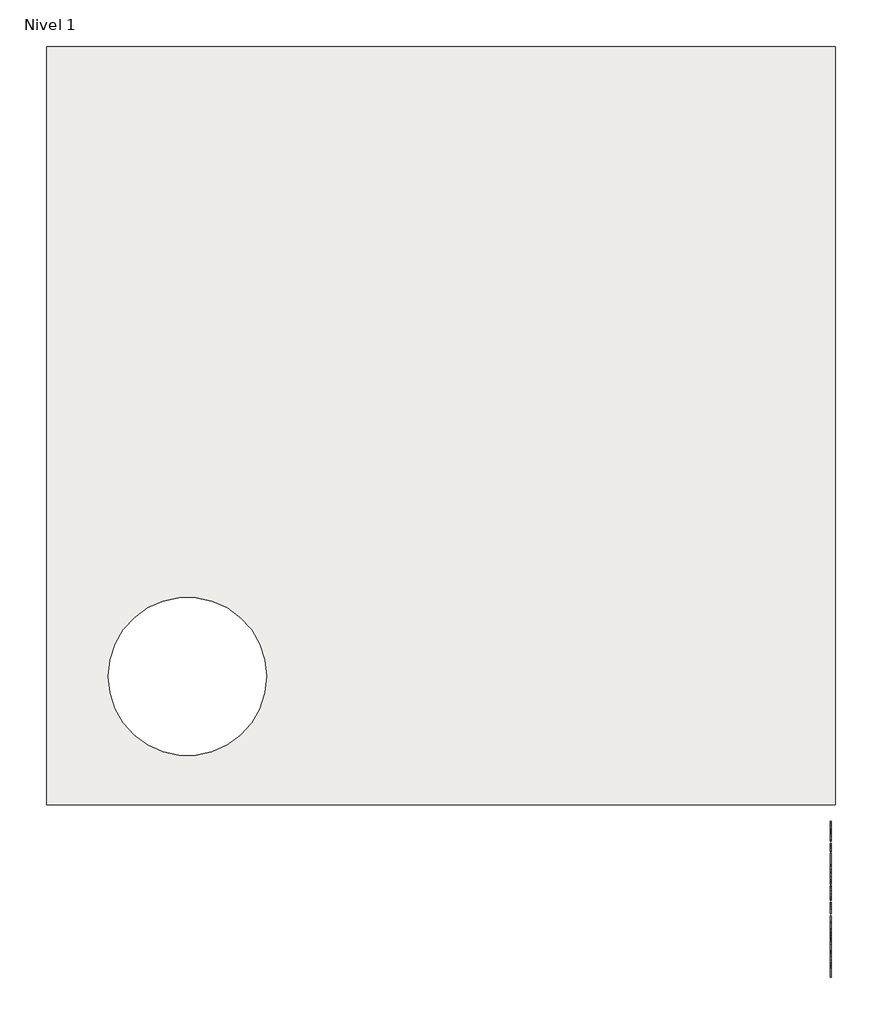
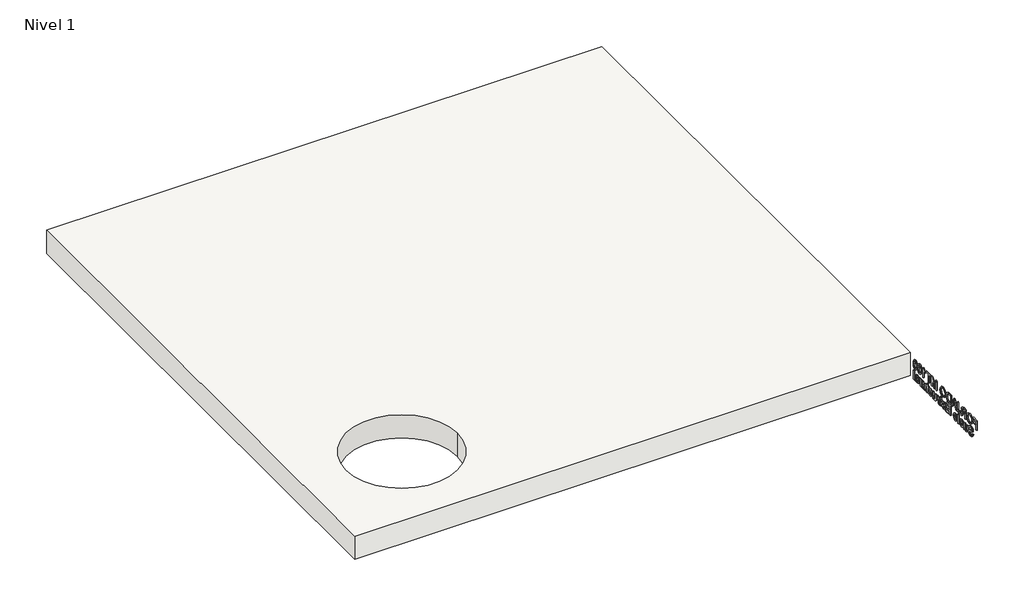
# One storey: 1 proxy, 1 slab.
"""IFC4 building model written with IfcOpenShell, lengths in millimetres."""

from ifc_helpers import new_model, si_unit, point, frame, frame_2d, origin, place, context, project, spatial, polyline, circle_curve, trimmed, segment, composite_curve, outline, extrude, element, save

model = new_model("IFC4")

# Units and contexts
model_context = context("Model", 3, world=origin())
ifc_project = project(units=[si_unit("LENGTHUNIT", "METRE", prefix="MILLI")], contexts=[model_context])

# Site, building, storey
site = spatial("IfcSite", under=ifc_project)
building = spatial("IfcBuilding", under=site)
storey = spatial("IfcBuildingStorey", under=building, Name="Nivel 1", Elevation=0.0)

# Proxy
placement = place(None, origin())
element("IfcBuildingElementProxy", 1, Name="100mm Arial", ObjectType="100mm Arial", at=placement, inside=storey, context=model_context, shape_type="SweptSolid", body=[
    extrude(outline(polyline([(14707.1707075, -1457.5453321), (14707.1707075, -1397.271546), (14747.6671575, -1397.271546), (14747.6671575, -1404.8057693), (14714.7049307, -1404.8057693), (14714.7049307, -1422.6995495), (14742.958268, -1422.6995495), (14742.958268, -1430.2337728), (14714.7049307, -1430.2337728), (14714.7049307, -1457.5453321), (14707.1707075, -1457.5453321)])), frame((9557.0230098, 0.0, 0.0), z_axis=(1.0, 0.0, 0.0), x_axis=(0.0, 1.0, 0.0)), (0.0, 0.0, 1.0), 5.0),
    extrude(outline(polyline([(14755.2013808, -1428.2030642), (14757.2100165, -1414.8746995), (14763.2359235, -1404.791054), (14772.4366522, -1398.4450896), (14783.9697528, -1396.3297681), (14798.9646229, -1400.3028937), (14809.1475965, -1411.3834994), (14812.6498331, -1427.511446), (14808.9636555, -1443.8601219), (14798.5158069, -1454.7788595), (14783.925607, -1458.48711), (14768.7688688, -1454.3889046), (14758.6447562, -1443.205292), (14755.2013808, -1428.2030642)]), holes=[polyline([(14762.735604, -1428.2766406), (14764.2420808, -1437.7054561), (14768.7615111, -1444.8901915), (14775.5544522, -1449.437213), (14783.8814611, -1450.9528868), (14792.3298711, -1449.4224977), (14799.1338486, -1444.8313304), (14803.6201696, -1437.4258658), (14805.1156099, -1427.4525849), (14802.5551512, -1415.0181735), (14795.0724314, -1406.7849744), (14784.0138986, -1403.8639914), (14769.0190285, -1409.4925859), (14764.3064602, -1417.0028968), (14762.735604, -1428.2766406)])]), frame((9557.0230098, 0.0, 0.0), z_axis=(1.0, 0.0, 0.0), x_axis=(0.0, 1.0, 0.0)), (0.0, 0.0, 1.0), 5.0),
    extrude(outline(polyline([(14823.0093901, -1457.5453321), (14823.0093901, -1397.271546), (14848.981859, -1397.271546), (14861.0410308, -1398.8975845), (14867.6334761, -1404.6512589), (14870.0982855, -1413.7673747), (14866.0147954, -1424.6272512), (14853.3964429, -1430.2337728), (14857.6785893, -1433.4564191), (14863.7854305, -1441.2113715), (14873.8359666, -1457.5453321), (14865.0803751, -1457.5453321), (14857.237131, -1445.0520596), (14851.5717482, -1436.7820723), (14847.591265, -1432.8751655), (14844.0080944, -1431.4404257), (14839.6376563, -1431.1755507), (14830.5436134, -1431.1755507), (14830.5436134, -1457.5453321), (14823.0093901, -1457.5453321)]), holes=[polyline([(14830.5436134, -1423.6413275), (14847.407324, -1423.6413275), (14856.0084051, -1422.5744697), (14860.893878, -1419.1605247), (14862.5640622, -1414.046965), (14859.3782042, -1407.4103738), (14849.3055951, -1404.8057693), (14830.5436134, -1404.8057693), (14830.5436134, -1423.6413275)])]), frame((9557.0230098, 0.0, 0.0), z_axis=(1.0, 0.0, 0.0), x_axis=(0.0, 1.0, 0.0)), (0.0, 0.0, 1.0), 5.0),
    extrude(outline(polyline([(14879.5160646, -1440.6227603), (14887.0502878, -1439.6515519), (14889.6254618, -1448.5542962), (14895.9824627, -1450.9528868), (14901.1401683, -1449.5917234), (14904.1273701, -1445.8834729), (14904.9440681, -1438.4154684), (14904.9440681, -1397.271546), (14912.4782914, -1397.271546), (14912.4782914, -1438.2830309), (14910.6609543, -1449.9890359), (14904.8925646, -1456.3092486), (14895.629296, -1458.48711), (14883.5480513, -1453.9915921), (14879.5160646, -1440.6227603)])), frame((9557.0230098, 0.0, 0.0), z_axis=(1.0, 0.0, 0.0), x_axis=(0.0, 1.0, 0.0)), (0.0, 0.0, 1.0), 5.0),
    extrude(outline(polyline([(14918.6439936, -1457.5453321), (14942.7034761, -1397.271546), (14949.1193381, -1397.271546), (14973.1788206, -1457.5453321), (14965.2178542, -1457.5453321), (14958.316388, -1438.709774), (14933.4917109, -1438.709774), (14926.60496, -1457.5453321), (14918.6439936, -1457.5453321)]), holes=[polyline([(14936.2581835, -1431.1755507), (14955.5646306, -1431.1755507), (14950.1346924, -1416.3572639), (14945.9114071, -1404.8057693), (14942.1590107, -1415.0623193), (14936.2581835, -1431.1755507)])]), frame((9557.0230098, 0.0, 0.0), z_axis=(1.0, 0.0, 0.0), x_axis=(0.0, 1.0, 0.0)), (0.0, 0.0, 1.0), 5.0),
    extrude(outline(polyline([(14981.2280786, -1457.5453321), (14981.2280786, -1397.271546), (15002.020769, -1397.271546), (15012.7776385, -1398.1397475), (15021.636237, -1402.4513245), (15028.7731477, -1412.7520204), (15031.1423077, -1427.0847029), (15029.5383422, -1439.2468817), (15025.4180639, -1448.0245461), (15019.9145492, -1453.4912725), (15012.7114198, -1456.5152625), (15003.021408, -1457.5453321), (14981.2280786, -1457.5453321)]), holes=[polyline([(14988.7623019, -1450.0111089), (15002.0943454, -1450.0111089), (15011.7917148, -1448.9221782), (15017.3835211, -1445.8466847), (15021.9673308, -1438.3639649), (15023.6080845, -1426.9669807), (15020.3927958, -1412.6931593), (15012.5716246, -1406.0124222), (15001.8883315, -1404.8057693), (14988.7623019, -1404.8057693), (14988.7623019, -1450.0111089)])]), frame((9557.0230098, 0.0, 0.0), z_axis=(1.0, 0.0, 0.0), x_axis=(0.0, 1.0, 0.0)), (0.0, 0.0, 1.0), 5.0),
    extrude(outline(polyline([(15038.676531, -1428.2030642), (15040.6851667, -1414.8746995), (15046.7110738, -1404.791054), (15055.9118025, -1398.4450896), (15067.444903, -1396.3297681), (15082.4397731, -1400.3028937), (15092.6227467, -1411.3834994), (15096.1249833, -1427.511446), (15092.4388058, -1443.8601219), (15081.9909571, -1454.7788595), (15067.4007572, -1458.48711), (15052.244019, -1454.3889046), (15042.1199065, -1443.205292), (15038.676531, -1428.2030642)]), holes=[polyline([(15046.2107542, -1428.2766406), (15047.717231, -1437.7054561), (15052.2366613, -1444.8901915), (15059.0296024, -1449.437213), (15067.3566113, -1450.9528868), (15075.8050213, -1449.4224977), (15082.6089988, -1444.8313304), (15087.0953198, -1437.4258658), (15088.5907601, -1427.4525849), (15086.0303014, -1415.0181735), (15078.5475816, -1406.7849744), (15067.4890488, -1403.8639914), (15052.4941787, -1409.4925859), (15047.7816104, -1417.0028968), (15046.2107542, -1428.2766406)])]), frame((9557.0230098, 0.0, 0.0), z_axis=(1.0, 0.0, 0.0), x_axis=(0.0, 1.0, 0.0)), (0.0, 0.0, 1.0), 5.0),
    extrude(outline(polyline([(15130.028988, -1457.5453321), (15130.028988, -1397.271546), (15142.9931495, -1397.271546), (15155.324554, -1439.7545588), (15157.8114363, -1448.6278726), (15160.5043325, -1439.0187948), (15172.6297231, -1397.271546), (15185.5938846, -1397.271546), (15185.5938846, -1457.5453321), (15178.0596613, -1457.5453321), (15178.0596613, -1404.8057693), (15162.9176384, -1457.5453321), (15152.7052342, -1457.5453321), (15137.5632113, -1404.8057693), (15137.5632113, -1457.5453321), (15130.028988, -1457.5453321)])), frame((9557.0230098, 0.0, 0.0), z_axis=(1.0, 0.0, 0.0), x_axis=(0.0, 1.0, 0.0)), (0.0, 0.0, 1.0), 5.0),
    extrude(outline(polyline([(15213.8472218, -1457.5453321), (15213.8472218, -1404.8057693), (15194.0698857, -1404.8057693), (15194.0698857, -1397.271546), (15241.1587811, -1397.271546), (15241.1587811, -1404.8057693), (15221.3814451, -1404.8057693), (15221.3814451, -1457.5453321), (15213.8472218, -1457.5453321)])), frame((9557.0230098, 0.0, 0.0), z_axis=(1.0, 0.0, 0.0), x_axis=(0.0, 1.0, 0.0)), (0.0, 0.0, 1.0), 5.0),
    extrude(outline(polyline([(15275.0627858, -1457.5453321), (15267.5285625, -1457.5453321), (15267.5285625, -1410.574159), (15260.3916518, -1415.6582882), (15252.460116, -1419.462188), (15252.460116, -1412.3399926), (15263.5039335, -1405.2913735), (15270.2067435, -1397.271546), (15275.0627858, -1397.271546), (15275.0627858, -1457.5453321)])), frame((9557.0230098, 0.0, 0.0), z_axis=(1.0, 0.0, 0.0), x_axis=(0.0, 1.0, 0.0)), (0.0, 0.0, 1.0), 5.0),
    extrude(outline(polyline([(15292.956566, -1427.8940433), (15295.1712157, -1410.5520861), (15301.7489457, -1400.5530534), (15312.7339021, -1397.271546), (15321.5336394, -1399.213963), (15327.61105, -1404.8131269), (15331.1427171, -1413.7305865), (15332.5112382, -1427.8940433), (15330.3186615, -1445.1624242), (15323.7630043, -1455.1835297), (15312.7339021, -1458.48711), (15304.9053732, -1457.0523703), (15298.9604002, -1452.7481509), (15294.4575246, -1442.5541408), (15292.956566, -1427.8940433)]), holes=[polyline([(15300.4907893, -1427.879328), (15304.0224565, -1446.5898063), (15312.7339021, -1450.9528868), (15321.4453477, -1446.575091), (15324.9770149, -1427.879328), (15321.56307, -1409.3822213), (15312.6456104, -1404.8057693), (15304.1401787, -1408.837756), (15300.4907893, -1427.879328)])]), frame((9557.0230098, 0.0, 0.0), z_axis=(1.0, 0.0, 0.0), x_axis=(0.0, 1.0, 0.0)), (0.0, 0.0, 1.0), 5.0),
    extrude(outline(polyline([(15339.1036835, -1427.8940433), (15341.3183331, -1410.5520861), (15347.8960632, -1400.5530534), (15358.8810196, -1397.271546), (15367.6807569, -1399.213963), (15373.7581675, -1404.8131269), (15377.2898346, -1413.7305865), (15378.6583556, -1427.8940433), (15376.4657789, -1445.1624242), (15369.9101218, -1455.1835297), (15358.8810196, -1458.48711), (15351.0524907, -1457.0523703), (15345.1075177, -1452.7481509), (15340.6046421, -1442.5541408), (15339.1036835, -1427.8940433)]), holes=[polyline([(15346.6379068, -1427.879328), (15350.1695739, -1446.5898063), (15358.8810196, -1450.9528868), (15367.5924652, -1446.575091), (15371.1241324, -1427.879328), (15367.7101875, -1409.3822213), (15358.7927279, -1404.8057693), (15350.2872962, -1408.837756), (15346.6379068, -1427.879328)])]), frame((9557.0230098, 0.0, 0.0), z_axis=(1.0, 0.0, 0.0), x_axis=(0.0, 1.0, 0.0)), (0.0, 0.0, 1.0), 5.0),
    extrude(outline(polyline([(14747.6671575, -1510.0111089), (14755.2013808, -1510.0111089), (14757.6294019, -1517.5526898), (14763.5596597, -1522.3204404), (14772.5948415, -1524.1377775), (14780.4675162, -1522.7618988), (14785.5516454, -1518.9800719), (14787.2218296, -1513.9253733), (14785.9710308, -1509.2238414), (14780.8501135, -1505.8025388), (14769.8798724, -1502.9257016), (14758.0708603, -1499.2100935), (14751.662356, -1493.6035719), (14749.5507133, -1486.1134945), (14752.1626755, -1477.5859898), (14759.7925481, -1471.5674404), (14770.9614454, -1469.5146588), (14782.8808221, -1471.6630897), (14790.8270732, -1477.9759447), (14793.814275, -1487.4084391), (14786.2800517, -1487.4084391), (14782.0126206, -1479.6682019), (14771.255751, -1477.0488821), (14760.4694509, -1479.6387713), (14757.0849366, -1485.8927653), (14759.4835272, -1491.1166896), (14771.7855011, -1495.3252596), (14785.1175446, -1499.1070865), (14792.4089658, -1505.2139276), (14794.7560529, -1513.7340747), (14792.0557991, -1522.7471835), (14784.2861313, -1529.3249136), (14772.8891471, -1531.6720007), (14759.4320237, -1529.1409726), (14750.9192343, -1521.5184577), (14747.6671575, -1510.0111089)])), frame((9557.0230098, 0.0, 0.0), z_axis=(1.0, 0.0, 0.0), x_axis=(0.0, 1.0, 0.0)), (0.0, 0.0, 1.0), 5.0),
    extrude(outline(polyline([(14833.3689471, -1530.7302228), (14833.3689471, -1523.1224232), (14827.4681199, -1529.5346063), (14819.7720286, -1531.6720007), (14812.6866213, -1530.1710422), (14807.8011484, -1526.4039306), (14805.5570683, -1520.8562701), (14805.1156099, -1513.8517969), (14805.1156099, -1486.4666612), (14812.6498331, -1486.4666612), (14812.6498331, -1510.3054145), (14813.1060068, -1517.9867905), (14816.085851, -1522.4970238), (14821.6997302, -1524.1377775), (14827.9905123, -1522.4602356), (14832.1475789, -1517.8911412), (14833.3689471, -1509.4960741), (14833.3689471, -1486.4666612), (14840.9031704, -1486.4666612), (14840.9031704, -1530.7302228), (14833.3689471, -1530.7302228)])), frame((9557.0230098, 0.0, 0.0), z_axis=(1.0, 0.0, 0.0), x_axis=(0.0, 1.0, 0.0)), (0.0, 0.0, 1.0), 5.0),
    extrude(outline(polyline([(14882.2531066, -1517.5453321), (14889.6401771, -1518.48711), (14882.7313532, -1528.21391), (14869.862841, -1531.6720007), (14861.0226367, -1530.1802393), (14854.2204986, -1525.7049548), (14849.8831699, -1518.5367741), (14848.4373936, -1508.966324), (14849.8978852, -1499.0739771), (14854.2793597, -1491.6758702), (14860.9895273, -1487.06263), (14869.4360979, -1485.5248833), (14877.6196329, -1487.0589512), (14884.1587354, -1491.6611549), (14888.4464, -1499.0445466), (14889.8756216, -1508.9221782), (14889.8314757, -1510.9528868), (14855.9716169, -1510.9528868), (14860.3052668, -1520.7385478), (14870.0099938, -1524.1377775), (14877.3970643, -1522.5632425), (14882.2531066, -1517.5453321)]), holes=[polyline([(14855.9716169, -1503.4186635), (14882.3413983, -1503.4186635), (14879.3247659, -1496.5907737), (14869.4066674, -1493.0591065), (14860.1286834, -1495.8770826), (14855.9716169, -1503.4186635)])]), frame((9557.0230098, 0.0, 0.0), z_axis=(1.0, 0.0, 0.0), x_axis=(0.0, 1.0, 0.0)), (0.0, 0.0, 1.0), 5.0),
    extrude(outline(polyline([(9562.0230098, 14904.9440681), (9562.0230098, 14897.4098448), (9557.0230098, 14897.4098448), (9557.0230098, 14904.9440681), (9562.0230098, 14904.9440681)])), frame((0.0, 0.0, -1530.7302228), z_axis=(0.0, 0.0, 1.0), x_axis=(1.0, 0.0, 0.0)), (0.0, 0.0, 1.0), 60.2737861),
    extrude(outline(polyline([(14914.3618472, -1508.598442), (14915.9915644, -1497.9261853), (14920.8807161, -1490.4250714), (14934.1538985, -1485.5248833), (14942.0688796, -1487.0166448), (14948.3909317, -1491.4919292), (14952.5351224, -1498.59757), (14953.9165193, -1507.9804003), (14951.4737828, -1521.3860202), (14944.3589451, -1528.9717469), (14934.1538985, -1531.6720007), (14926.1432681, -1530.1857575), (14919.8285736, -1525.7270277), (14915.7285288, -1518.4723948), (14914.3618472, -1508.598442)]), holes=[polyline([(14921.8960704, -1508.5837267), (14925.3835917, -1520.2603013), (14934.1538985, -1524.1377775), (14942.8947747, -1520.2382283), (14946.382296, -1508.3482822), (14942.8727018, -1496.9365828), (14934.1538985, -1493.0591065), (14925.3835917, -1496.9218675), (14921.8960704, -1508.5837267)])]), frame((9557.0230098, 0.0, 0.0), z_axis=(1.0, 0.0, 0.0), x_axis=(0.0, 1.0, 0.0)), (0.0, 0.0, 1.0), 5.0),
    extrude(outline(polyline([(14986.8787461, -1530.7302228), (14986.8787461, -1470.4564367), (15030.2005298, -1470.4564367), (15030.2005298, -1477.99066), (14994.4129693, -1477.99066), (14994.4129693, -1495.8844403), (15028.316974, -1495.8844403), (15028.316974, -1503.4186635), (14994.4129693, -1503.4186635), (14994.4129693, -1523.1959996), (15031.1423077, -1523.1959996), (15031.1423077, -1530.7302228), (14986.8787461, -1530.7302228)])), frame((9557.0230098, 0.0, 0.0), z_axis=(1.0, 0.0, 0.0), x_axis=(0.0, 1.0, 0.0)), (0.0, 0.0, 1.0), 5.0),
    extrude(outline(polyline([(15038.676531, -1517.5453321), (15046.2107542, -1516.6035542), (15049.6982756, -1522.1953605), (15057.6886725, -1524.1377775), (15065.3700485, -1522.3572286), (15067.8716461, -1518.1780892), (15065.3553333, -1514.7935748), (15057.6003808, -1512.645144), (15046.2549001, -1508.9589664), (15041.3032084, -1504.654747), (15039.6183089, -1498.5773365), (15040.9721146, -1492.9634572), (15044.6656499, -1488.6739531), (15049.4554734, -1486.4445883), (15055.9375542, -1485.5248833), (15065.1051735, -1487.0037689), (15070.9324243, -1491.006325), (15073.5223136, -1497.7679961), (15065.9880903, -1498.709774), (15063.1553989, -1494.5527074), (15056.5261654, -1493.0591065), (15049.3156783, -1494.4864887), (15047.1525321, -1497.8121419), (15048.0501642, -1500.0047186), (15050.8607827, -1501.6675452), (15057.3502211, -1503.2715107), (15068.4087538, -1506.8178931), (15073.5443865, -1510.8351645), (15075.4058694, -1517.383464), (15073.2206503, -1524.5939512), (15066.9151529, -1529.8252331), (15057.5856655, -1531.6720007), (15044.4449207, -1528.110903), (15038.676531, -1517.5453321)])), frame((9557.0230098, 0.0, 0.0), z_axis=(1.0, 0.0, 0.0), x_axis=(0.0, 1.0, 0.0)), (0.0, 0.0, 1.0), 5.0),
    extrude(outline(polyline([(15099.892095, -1524.4467984), (15100.8338729, -1530.950952), (15095.1979207, -1531.6720007), (15088.8850657, -1530.421202), (15085.7359958, -1527.1396946), (15084.8236485, -1518.590117), (15084.8236485, -1494.0008844), (15079.172981, -1494.0008844), (15079.172981, -1486.4666612), (15084.8236485, -1486.4666612), (15084.8236485, -1475.7097916), (15092.3578717, -1471.2804924), (15092.3578717, -1486.4666612), (15099.892095, -1486.4666612), (15099.892095, -1494.0008844), (15092.3578717, -1494.0008844), (15092.3578717, -1518.3693878), (15092.7551843, -1522.2542217), (15094.0427713, -1523.6301003), (15096.6105876, -1524.1377775), (15099.892095, -1524.4467984)])), frame((9557.0230098, 0.0, 0.0), z_axis=(1.0, 0.0, 0.0), x_axis=(0.0, 1.0, 0.0)), (0.0, 0.0, 1.0), 5.0),
    extrude(outline(polyline([(15107.4263182, -1530.7302228), (15107.4263182, -1486.4666612), (15114.0187636, -1486.4666612), (15114.0187636, -1493.0149607), (15118.6982226, -1486.981696), (15123.4071121, -1485.5248833), (15130.9707659, -1487.8498975), (15128.4544531, -1494.6042109), (15123.1569523, -1493.0591065), (15118.8968788, -1494.5453498), (15116.1819097, -1498.6656281), (15114.9605415, -1507.4653655), (15114.9605415, -1530.7302228), (15107.4263182, -1530.7302228)])), frame((9557.0230098, 0.0, 0.0), z_axis=(1.0, 0.0, 0.0), x_axis=(0.0, 1.0, 0.0)), (0.0, 0.0, 1.0), 5.0),
    extrude(outline(polyline([(15163.9329927, -1530.7302228), (15163.9329927, -1523.1224232), (15158.0321655, -1529.5346063), (15150.3360742, -1531.6720007), (15143.2506669, -1530.1710422), (15138.365194, -1526.4039306), (15136.1211139, -1520.8562701), (15135.6796555, -1513.8517969), (15135.6796555, -1486.4666612), (15143.2138787, -1486.4666612), (15143.2138787, -1510.3054145), (15143.6700524, -1517.9867905), (15146.6498966, -1522.4970238), (15152.2637758, -1524.1377775), (15158.5545579, -1522.4602356), (15162.7116245, -1517.8911412), (15163.9329927, -1509.4960741), (15163.9329927, -1486.4666612), (15171.467216, -1486.4666612), (15171.467216, -1530.7302228), (15163.9329927, -1530.7302228)])), frame((9557.0230098, 0.0, 0.0), z_axis=(1.0, 0.0, 0.0), x_axis=(0.0, 1.0, 0.0)), (0.0, 0.0, 1.0), 5.0),
    extrude(outline(polyline([(15210.0801102, -1514.7199984), (15217.6143334, -1515.6617763), (15211.5663534, -1527.4266425), (15199.6175462, -1531.6720007), (15191.603237, -1530.1912757), (15185.3363672, -1525.7491006), (15181.2915046, -1518.5404529), (15179.9432171, -1508.7603101), (15182.2461584, -1496.2449646), (15189.2653469, -1488.2030642), (15199.5145393, -1485.5248833), (15210.9703846, -1489.2037032), (15216.6725555, -1499.6515519), (15209.1383323, -1500.5933298), (15205.6434533, -1494.95002), (15199.5734004, -1493.0591065), (15190.8398818, -1496.7820723), (15187.4774404, -1508.5542962), (15190.7663054, -1520.4368846), (15199.3673865, -1524.1377775), (15206.467509, -1521.8274786), (15210.0801102, -1514.7199984)])), frame((9557.0230098, 0.0, 0.0), z_axis=(1.0, 0.0, 0.0), x_axis=(0.0, 1.0, 0.0)), (0.0, 0.0, 1.0), 5.0),
    extrude(outline(polyline([(15240.2170032, -1524.4467984), (15241.1587811, -1530.950952), (15235.522829, -1531.6720007), (15229.2099739, -1530.421202), (15226.060904, -1527.1396946), (15225.1485567, -1518.590117), (15225.1485567, -1494.0008844), (15219.4978892, -1494.0008844), (15219.4978892, -1486.4666612), (15225.1485567, -1486.4666612), (15225.1485567, -1475.7097916), (15232.68278, -1471.2804924), (15232.68278, -1486.4666612), (15240.2170032, -1486.4666612), (15240.2170032, -1494.0008844), (15232.68278, -1494.0008844), (15232.68278, -1518.3693878), (15233.0800925, -1522.2542217), (15234.3676795, -1523.6301003), (15236.9354958, -1524.1377775), (15240.2170032, -1524.4467984)])), frame((9557.0230098, 0.0, 0.0), z_axis=(1.0, 0.0, 0.0), x_axis=(0.0, 1.0, 0.0)), (0.0, 0.0, 1.0), 5.0),
    extrude(outline(polyline([(15276.0045637, -1530.7302228), (15276.0045637, -1523.1224232), (15270.1037365, -1529.5346063), (15262.4076452, -1531.6720007), (15255.3222379, -1530.1710422), (15250.436765, -1526.4039306), (15248.1926849, -1520.8562701), (15247.7512265, -1513.8517969), (15247.7512265, -1486.4666612), (15255.2854497, -1486.4666612), (15255.2854497, -1510.3054145), (15255.7416234, -1517.9867905), (15258.7214676, -1522.4970238), (15264.3353468, -1524.1377775), (15270.6261289, -1522.4602356), (15274.7831955, -1517.8911412), (15276.0045637, -1509.4960741), (15276.0045637, -1486.4666612), (15283.538787, -1486.4666612), (15283.538787, -1530.7302228), (15276.0045637, -1530.7302228)])), frame((9557.0230098, 0.0, 0.0), z_axis=(1.0, 0.0, 0.0), x_axis=(0.0, 1.0, 0.0)), (0.0, 0.0, 1.0), 5.0),
    extrude(outline(polyline([(15293.898344, -1530.7302228), (15293.898344, -1486.4666612), (15300.4907893, -1486.4666612), (15300.4907893, -1493.0149607), (15305.1702483, -1486.981696), (15309.8791378, -1485.5248833), (15317.4427916, -1487.8498975), (15314.9264788, -1494.6042109), (15309.6289781, -1493.0591065), (15305.3689046, -1494.5453498), (15302.6539354, -1498.6656281), (15301.4325672, -1507.4653655), (15301.4325672, -1530.7302228), (15293.898344, -1530.7302228)])), frame((9557.0230098, 0.0, 0.0), z_axis=(1.0, 0.0, 0.0), x_axis=(0.0, 1.0, 0.0)), (0.0, 0.0, 1.0), 5.0),
    extrude(outline(polyline([(15350.4050184, -1525.0795554), (15343.098882, -1530.1857575), (15335.027551, -1531.6720007), (15324.0867405, -1528.0961877), (15320.2681254, -1518.957999), (15321.7102228, -1512.9983107), (15325.4994073, -1508.6720184), (15330.7748351, -1506.1998514), (15337.2937041, -1505.0667748), (15350.3608726, -1502.4768856), (15350.4050184, -1500.7993437), (15348.330164, -1495.2369679), (15340.0013156, -1493.0591065), (15332.3788006, -1494.5085616), (15328.7441265, -1499.6515519), (15321.2099033, -1498.709774), (15324.4693377, -1491.3521341), (15331.0323525, -1487.0405571), (15340.9725241, -1485.5248833), (15350.1033552, -1486.8639737), (15355.2610607, -1490.2264152), (15357.5713597, -1495.3399749), (15357.9392417, -1501.9324203), (15357.9392417, -1511.3060535), (15358.3218389, -1524.3952949), (15359.8227975, -1530.7302228), (15352.2885742, -1530.7302228), (15350.4050184, -1525.0795554)]), holes=[polyline([(15350.4050184, -1510.0111089), (15338.2501973, -1512.3214078), (15331.7681165, -1513.542776), (15328.8324182, -1515.5293388), (15327.8023486, -1518.4282489), (15330.0464288, -1522.5043814), (15336.6315165, -1524.1377775), (15344.2540315, -1522.3351557), (15349.1689349, -1517.9720752), (15350.3608726, -1512.1448244), (15350.4050184, -1510.0111089)])]), frame((9557.0230098, 0.0, 0.0), z_axis=(1.0, 0.0, 0.0), x_axis=(0.0, 1.0, 0.0)), (0.0, 0.0, 1.0), 5.0),
    extrude(outline(polyline([(9562.0230098, 15375.8330219), (9562.0230098, 15368.2987987), (9557.0230098, 15368.2987987), (9557.0230098, 15375.8330219), (9562.0230098, 15375.8330219)])), frame((0.0, 0.0, -1530.7302228), z_axis=(0.0, 0.0, 1.0), x_axis=(1.0, 0.0, 0.0)), (0.0, 0.0, 1.0), 60.2737861),
])

# Slab
element("IfcSlab", 2, ObjectType="HIANSA - FORJADO COLABORANTE - MT-76", at=placement, inside=storey, context=model_context, shape_type="SweptSolid", body=[
    extrude(outline(polyline([(9579.0356399, 18706.6250372), (9579.0356399, 15448.3330796), (6188.1847372, 15448.3330796), (6188.1847372, 18706.6250372), (9579.0356399, 18706.6250372)]), holes=[composite_curve([segment(trimmed(circle_curve(frame_2d((6793.7372683, 16000.3958754)), 340.0), [point((6453.7372683, 16000.3958754))], [point((7133.7372683, 16000.3958754))], True, "CARTESIAN"), True, "CONTINUOUS"), segment(trimmed(circle_curve(frame_2d((6793.7372683, 16000.3958754)), 340.0), [point((7133.7372683, 16000.3958754))], [point((6453.7372683, 16000.3958754))], True, "CARTESIAN"), True, "CONTINUOUS")], self_intersect=False)]), frame((0.0, 0.0, -1560.0), z_axis=(0.0, 0.0, 1.0), x_axis=(1.0, 0.0, 0.0)), (0.0, 0.0, 1.0), 150.0),
])

save(model, "model.ifc")
